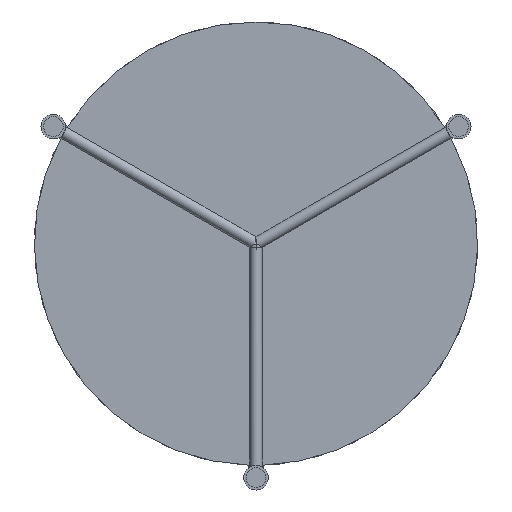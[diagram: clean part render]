
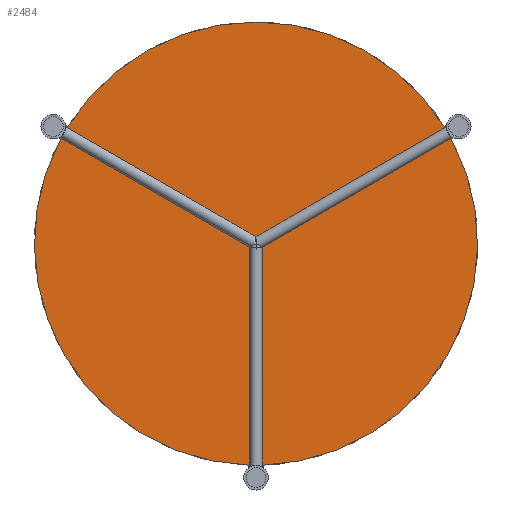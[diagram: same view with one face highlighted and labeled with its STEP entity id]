
A CAD part, front view. The second image highlights one B-rep face of the part: STEP entity #2484.
In plain terms, the highlighted planar face has unit normal (0, -1, 0).
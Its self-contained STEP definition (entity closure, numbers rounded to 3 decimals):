
#45 = EDGE_CURVE ( 'NONE', #1318, #4487, #4456, .T. ) ;
#47 = CARTESIAN_POINT ( 'NONE',  ( 6., 499., -179.9 ) ) ;
#53 = CARTESIAN_POINT ( 'NONE',  ( 0., 499., 0. ) ) ;
#74 = CARTESIAN_POINT ( 'NONE',  ( 167.605, 499., 89.839 ) ) ;
#77 = DIRECTION ( 'NONE',  ( -0.866, 0., -0.5 ) ) ;
#160 = CARTESIAN_POINT ( 'NONE',  ( 0., 499., 180. ) ) ;
#208 = CARTESIAN_POINT ( 'NONE',  ( 6., 499., -179.9 ) ) ;
#274 = ORIENTED_EDGE ( 'NONE', *, *, #2602, .T. ) ;
#303 = CIRCLE ( 'NONE', #894, 180. ) ;
#484 = DIRECTION ( 'NONE',  ( 0., 0., 1. ) ) ;
#497 = ORIENTED_EDGE ( 'NONE', *, *, #2647, .T. ) ;
#509 = VERTEX_POINT ( 'NONE', #2486 ) ;
#511 = LINE ( 'NONE', #208, #3098 ) ;
#518 = VECTOR ( 'NONE', #4380, 1000. ) ;
#524 = LINE ( 'NONE', #3361, #2295 ) ;
#530 = AXIS2_PLACEMENT_3D ( 'NONE', #3608, #1460, #2887 ) ;
#542 = VECTOR ( 'NONE', #3088, 1000. ) ;
#555 = EDGE_CURVE ( 'NONE', #2517, #2661, #3219, .T. ) ;
#559 = DIRECTION ( 'NONE',  ( 0., -1., 0. ) ) ;
#570 = CARTESIAN_POINT ( 'NONE',  ( -6., 499., -190.07 ) ) ;
#638 = VERTEX_POINT ( 'NONE', #805 ) ;
#647 = CARTESIAN_POINT ( 'NONE',  ( 154.677, 499., 96.231 ) ) ;
#668 = AXIS2_PLACEMENT_3D ( 'NONE', #3458, #1653, #4455 ) ;
#723 = ORIENTED_EDGE ( 'NONE', *, *, #1409, .T. ) ;
#728 = VERTEX_POINT ( 'NONE', #47 ) ;
#805 = CARTESIAN_POINT ( 'NONE',  ( -154.677, 499., 96.231 ) ) ;
#808 = EDGE_CURVE ( 'NONE', #4198, #509, #4394, .T. ) ;
#829 = AXIS2_PLACEMENT_3D ( 'NONE', #872, #2911, #4008 ) ;
#872 = CARTESIAN_POINT ( 'NONE',  ( 0., 499., 0. ) ) ;
#894 = AXIS2_PLACEMENT_3D ( 'NONE', #53, #2438, #2850 ) ;
#965 = AXIS2_PLACEMENT_3D ( 'NONE', #3975, #559, #3700 ) ;
#967 = ORIENTED_EDGE ( 'NONE', *, *, #808, .T. ) ;
#1034 = CIRCLE ( 'NONE', #1930, 10. ) ;
#1063 = DIRECTION ( 'NONE',  ( 0., 1., 0. ) ) ;
#1089 = CARTESIAN_POINT ( 'NONE',  ( 152.798, 499., 95.146 ) ) ;
#1095 = ORIENTED_EDGE ( 'NONE', *, *, #3070, .T. ) ;
#1119 = EDGE_CURVE ( 'NONE', #3191, #1552, #303, .T. ) ;
#1242 = DIRECTION ( 'NONE',  ( 0., 1., 0. ) ) ;
#1248 = ORIENTED_EDGE ( 'NONE', *, *, #45, .T. ) ;
#1258 = CARTESIAN_POINT ( 'NONE',  ( -158.798, 499., 84.754 ) ) ;
#1266 = CIRCLE ( 'NONE', #3314, 10. ) ;
#1318 = VERTEX_POINT ( 'NONE', #1429 ) ;
#1380 = EDGE_CURVE ( 'NONE', #509, #4410, #1034, .T. ) ;
#1409 = EDGE_CURVE ( 'NONE', #1552, #638, #524, .T. ) ;
#1429 = CARTESIAN_POINT ( 'NONE',  ( -160.677, 499., 85.839 ) ) ;
#1430 = DIRECTION ( 'NONE',  ( 0., 0., -1. ) ) ;
#1460 = DIRECTION ( 'NONE',  ( 0., -1., 0. ) ) ;
#1488 = CIRCLE ( 'NONE', #965, 180. ) ;
#1552 = VERTEX_POINT ( 'NONE', #1726 ) ;
#1555 = ORIENTED_EDGE ( 'NONE', *, *, #2760, .T. ) ;
#1573 = DIRECTION ( 'NONE',  ( 0., 0., -1. ) ) ;
#1612 = CARTESIAN_POINT ( 'NONE',  ( 0., 499., -190.07 ) ) ;
#1653 = DIRECTION ( 'NONE',  ( 0., -1., 0. ) ) ;
#1726 = CARTESIAN_POINT ( 'NONE',  ( -152.798, 499., 95.146 ) ) ;
#1930 = AXIS2_PLACEMENT_3D ( 'NONE', #1612, #1242, #1573 ) ;
#2080 = PLANE ( 'NONE',  #668 ) ;
#2144 = CARTESIAN_POINT ( 'NONE',  ( -6., 499., -179.9 ) ) ;
#2172 = CARTESIAN_POINT ( 'NONE',  ( -164.605, 499., 95.035 ) ) ;
#2295 = VECTOR ( 'NONE', #3326, 1000. ) ;
#2342 = ORIENTED_EDGE ( 'NONE', *, *, #1119, .T. ) ;
#2438 = DIRECTION ( 'NONE',  ( 0., -1., 0. ) ) ;
#2484 = ADVANCED_FACE ( 'NONE', ( #2762 ), #2080, .T. ) ;
#2486 = CARTESIAN_POINT ( 'NONE',  ( -6., 499., -182.07 ) ) ;
#2498 = EDGE_LOOP ( 'NONE', ( #723, #274, #1248, #2899, #967, #3257, #3772, #497, #4034, #1555, #3799, #1095, #2342 ) ) ;
#2517 = VERTEX_POINT ( 'NONE', #3765 ) ;
#2602 = EDGE_CURVE ( 'NONE', #638, #1318, #1266, .T. ) ;
#2647 = EDGE_CURVE ( 'NONE', #728, #2517, #1488, .T. ) ;
#2660 = CARTESIAN_POINT ( 'NONE',  ( 152.798, 499., 95.146 ) ) ;
#2661 = VERTEX_POINT ( 'NONE', #4360 ) ;
#2683 = CARTESIAN_POINT ( 'NONE',  ( 164.605, 499., 95.035 ) ) ;
#2760 = EDGE_CURVE ( 'NONE', #2661, #2990, #3744, .T. ) ;
#2762 = FACE_OUTER_BOUND ( 'NONE', #2498, .T. ) ;
#2802 = CIRCLE ( 'NONE', #829, 180. ) ;
#2808 = EDGE_CURVE ( 'NONE', #4410, #728, #511, .T. ) ;
#2841 = CARTESIAN_POINT ( 'NONE',  ( 6., 499., -182.07 ) ) ;
#2842 = VERTEX_POINT ( 'NONE', #2660 ) ;
#2850 = DIRECTION ( 'NONE',  ( 0., 0., -1. ) ) ;
#2887 = DIRECTION ( 'NONE',  ( 0., 0., -1. ) ) ;
#2899 = ORIENTED_EDGE ( 'NONE', *, *, #3157, .T. ) ;
#2911 = DIRECTION ( 'NONE',  ( 0., -1., 0. ) ) ;
#2954 = AXIS2_PLACEMENT_3D ( 'NONE', #2683, #3020, #4362 ) ;
#2990 = VERTEX_POINT ( 'NONE', #647 ) ;
#3020 = DIRECTION ( 'NONE',  ( 0., 1., 0. ) ) ;
#3070 = EDGE_CURVE ( 'NONE', #2842, #3191, #3683, .T. ) ;
#3088 = DIRECTION ( 'NONE',  ( 0.866, 0., -0.5 ) ) ;
#3098 = VECTOR ( 'NONE', #484, 1000. ) ;
#3157 = EDGE_CURVE ( 'NONE', #4487, #4198, #2802, .T. ) ;
#3191 = VERTEX_POINT ( 'NONE', #160 ) ;
#3219 = LINE ( 'NONE', #74, #518 ) ;
#3257 = ORIENTED_EDGE ( 'NONE', *, *, #1380, .T. ) ;
#3314 = AXIS2_PLACEMENT_3D ( 'NONE', #2172, #1063, #1430 ) ;
#3326 = DIRECTION ( 'NONE',  ( -0.866, 0., 0.5 ) ) ;
#3361 = CARTESIAN_POINT ( 'NONE',  ( -161.605, 499., 100.231 ) ) ;
#3392 = CARTESIAN_POINT ( 'NONE',  ( -158.798, 499., 84.754 ) ) ;
#3458 = CARTESIAN_POINT ( 'NONE',  ( 0., 499., 0. ) ) ;
#3574 = LINE ( 'NONE', #1089, #3902 ) ;
#3608 = CARTESIAN_POINT ( 'NONE',  ( 0., 499., 0. ) ) ;
#3683 = CIRCLE ( 'NONE', #530, 180. ) ;
#3686 = DIRECTION ( 'NONE',  ( 0., 0., -1. ) ) ;
#3700 = DIRECTION ( 'NONE',  ( 0., 0., -1. ) ) ;
#3744 = CIRCLE ( 'NONE', #2954, 10. ) ;
#3765 = CARTESIAN_POINT ( 'NONE',  ( 158.798, 499., 84.754 ) ) ;
#3772 = ORIENTED_EDGE ( 'NONE', *, *, #2808, .T. ) ;
#3781 = EDGE_CURVE ( 'NONE', #2990, #2842, #3574, .T. ) ;
#3799 = ORIENTED_EDGE ( 'NONE', *, *, #3781, .T. ) ;
#3902 = VECTOR ( 'NONE', #77, 1000. ) ;
#3975 = CARTESIAN_POINT ( 'NONE',  ( 0., 499., 0. ) ) ;
#4008 = DIRECTION ( 'NONE',  ( 0., 0., -1. ) ) ;
#4034 = ORIENTED_EDGE ( 'NONE', *, *, #555, .T. ) ;
#4198 = VERTEX_POINT ( 'NONE', #2144 ) ;
#4360 = CARTESIAN_POINT ( 'NONE',  ( 160.677, 499., 85.839 ) ) ;
#4362 = DIRECTION ( 'NONE',  ( 0., 0., -1. ) ) ;
#4380 = DIRECTION ( 'NONE',  ( 0.866, 0., 0.5 ) ) ;
#4394 = LINE ( 'NONE', #570, #4484 ) ;
#4410 = VERTEX_POINT ( 'NONE', #2841 ) ;
#4455 = DIRECTION ( 'NONE',  ( 0., 0., -1. ) ) ;
#4456 = LINE ( 'NONE', #3392, #542 ) ;
#4484 = VECTOR ( 'NONE', #3686, 1000. ) ;
#4487 = VERTEX_POINT ( 'NONE', #1258 ) ;
